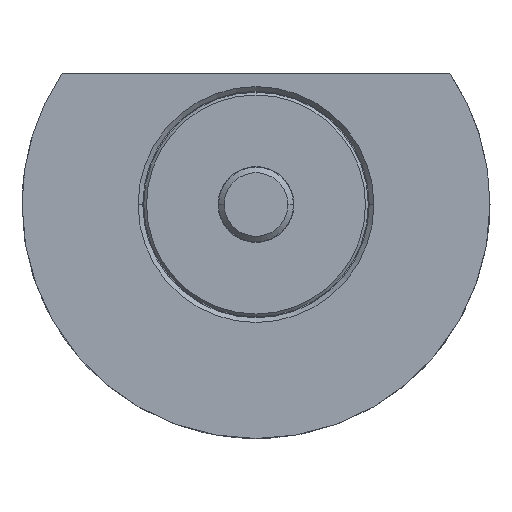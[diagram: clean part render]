
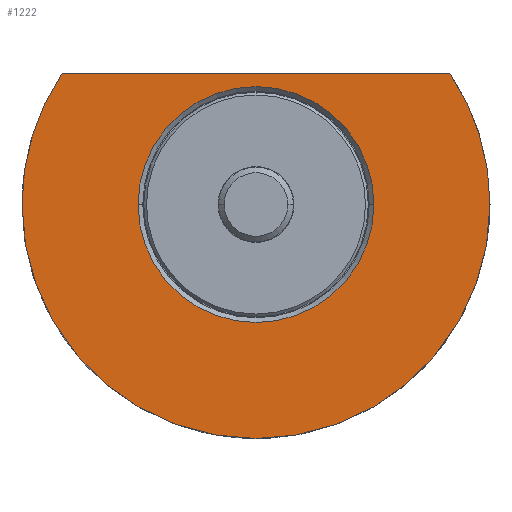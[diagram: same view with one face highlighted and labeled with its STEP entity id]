
A CAD part, front view. The second image highlights one B-rep face of the part: STEP entity #1222.
In plain terms, the highlighted planar face has unit normal (0, -1, 0).
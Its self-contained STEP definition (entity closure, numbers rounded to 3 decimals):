
#39 = DIRECTION ( 'NONE',  ( -1., 0., 0. ) ) ;
#42 = DIRECTION ( 'NONE',  ( -1., 0., 0. ) ) ;
#104 = ORIENTED_EDGE ( 'NONE', *, *, #819, .T. ) ;
#107 = CIRCLE ( 'NONE', #1568, 12.6 ) ;
#110 = CARTESIAN_POINT ( 'NONE',  ( 25., -12., 0. ) ) ;
#125 = CARTESIAN_POINT ( 'NONE',  ( 20.712, -12., 14. ) ) ;
#137 = DIRECTION ( 'NONE',  ( -1., 0., 0. ) ) ;
#159 = EDGE_CURVE ( 'NONE', #2285, #1200, #107, .T. ) ;
#226 = VERTEX_POINT ( 'NONE', #1638 ) ;
#318 = CARTESIAN_POINT ( 'NONE',  ( -20.712, -12., 14. ) ) ;
#367 = CIRCLE ( 'NONE', #2026, 25. ) ;
#368 = CARTESIAN_POINT ( 'NONE',  ( -12.6, -12., 14. ) ) ;
#380 = DIRECTION ( 'NONE',  ( 0., -1., 0. ) ) ;
#386 = EDGE_LOOP ( 'NONE', ( #1131, #104 ) ) ;
#402 = FACE_BOUND ( 'NONE', #386, .T. ) ;
#576 = DIRECTION ( 'NONE',  ( -1., 0., 0. ) ) ;
#577 = ORIENTED_EDGE ( 'NONE', *, *, #839, .F. ) ;
#592 = DIRECTION ( 'NONE',  ( -1., 0., 0. ) ) ;
#602 = CARTESIAN_POINT ( 'NONE',  ( -12.6, -12., 0. ) ) ;
#614 = CIRCLE ( 'NONE', #995, 25. ) ;
#633 = CARTESIAN_POINT ( 'NONE',  ( 0., -12., 0. ) ) ;
#703 = AXIS2_PLACEMENT_3D ( 'NONE', #2346, #380, #1375 ) ;
#819 = EDGE_CURVE ( 'NONE', #1200, #2285, #1650, .T. ) ;
#821 = VERTEX_POINT ( 'NONE', #125 ) ;
#839 = EDGE_CURVE ( 'NONE', #226, #1668, #614, .T. ) ;
#874 = AXIS2_PLACEMENT_3D ( 'NONE', #1715, #1150, #1936 ) ;
#946 = EDGE_LOOP ( 'NONE', ( #1559, #2164, #577, #2126 ) ) ;
#995 = AXIS2_PLACEMENT_3D ( 'NONE', #2496, #1727, #137 ) ;
#1131 = ORIENTED_EDGE ( 'NONE', *, *, #159, .T. ) ;
#1150 = DIRECTION ( 'NONE',  ( 0., 1., 0. ) ) ;
#1168 = EDGE_CURVE ( 'NONE', #821, #1668, #2146, .T. ) ;
#1200 = VERTEX_POINT ( 'NONE', #602 ) ;
#1222 = ADVANCED_FACE ( 'NONE', ( #402, #2170 ), #1958, .T. ) ;
#1283 = VECTOR ( 'NONE', #576, 1000. ) ;
#1362 = DIRECTION ( 'NONE',  ( 0., 1., 0. ) ) ;
#1373 = EDGE_CURVE ( 'NONE', #821, #1681, #367, .T. ) ;
#1375 = DIRECTION ( 'NONE',  ( 1., 0., 0. ) ) ;
#1559 = ORIENTED_EDGE ( 'NONE', *, *, #1373, .F. ) ;
#1568 = AXIS2_PLACEMENT_3D ( 'NONE', #1737, #1362, #592 ) ;
#1629 = DIRECTION ( 'NONE',  ( 0., 1., 0. ) ) ;
#1638 = CARTESIAN_POINT ( 'NONE',  ( -25., -12., 0. ) ) ;
#1650 = CIRCLE ( 'NONE', #874, 12.6 ) ;
#1668 = VERTEX_POINT ( 'NONE', #318 ) ;
#1681 = VERTEX_POINT ( 'NONE', #110 ) ;
#1715 = CARTESIAN_POINT ( 'NONE',  ( 0., -12., 0. ) ) ;
#1727 = DIRECTION ( 'NONE',  ( 0., 1., 0. ) ) ;
#1737 = CARTESIAN_POINT ( 'NONE',  ( 0., -12., 0. ) ) ;
#1825 = DIRECTION ( 'NONE',  ( 0., 1., 0. ) ) ;
#1862 = CARTESIAN_POINT ( 'NONE',  ( 0., -12., 0. ) ) ;
#1936 = DIRECTION ( 'NONE',  ( -1., 0., 0. ) ) ;
#1958 = PLANE ( 'NONE',  #703 ) ;
#2026 = AXIS2_PLACEMENT_3D ( 'NONE', #1862, #1825, #39 ) ;
#2126 = ORIENTED_EDGE ( 'NONE', *, *, #2365, .F. ) ;
#2146 = LINE ( 'NONE', #368, #1283 ) ;
#2163 = CARTESIAN_POINT ( 'NONE',  ( 12.6, -12., 0. ) ) ;
#2164 = ORIENTED_EDGE ( 'NONE', *, *, #1168, .T. ) ;
#2170 = FACE_OUTER_BOUND ( 'NONE', #946, .T. ) ;
#2274 = CIRCLE ( 'NONE', #2519, 25. ) ;
#2285 = VERTEX_POINT ( 'NONE', #2163 ) ;
#2346 = CARTESIAN_POINT ( 'NONE',  ( -12.6, -12., 0. ) ) ;
#2365 = EDGE_CURVE ( 'NONE', #1681, #226, #2274, .T. ) ;
#2496 = CARTESIAN_POINT ( 'NONE',  ( 0., -12., 0. ) ) ;
#2519 = AXIS2_PLACEMENT_3D ( 'NONE', #633, #1629, #42 ) ;
